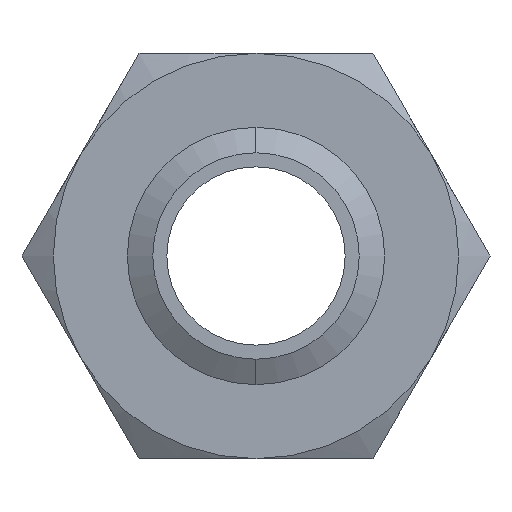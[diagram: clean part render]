
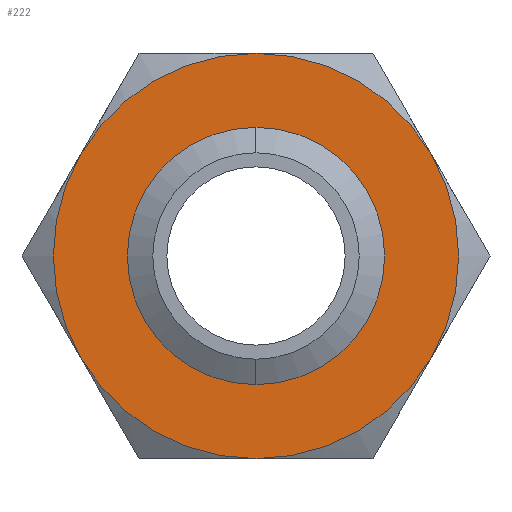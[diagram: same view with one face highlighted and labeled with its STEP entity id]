
A CAD part, front view. The second image highlights one B-rep face of the part: STEP entity #222.
In plain terms, the highlighted planar face has unit normal (0, -1, 0).
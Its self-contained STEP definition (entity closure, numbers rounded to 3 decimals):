
#222 = ADVANCED_FACE ( 'NONE', ( #763, #762 ), #761, .F. ) ;
#223 = ORIENTED_EDGE ( 'NONE', *, *, #297, .F. ) ;
#224 = EDGE_CURVE ( 'NONE', #303, #301, #759, .T. ) ;
#225 = ORIENTED_EDGE ( 'NONE', *, *, #226, .F. ) ;
#226 = EDGE_CURVE ( 'NONE', #227, #303, #750, .T. ) ;
#227 = VERTEX_POINT ( 'NONE', #751 ) ;
#228 = ORIENTED_EDGE ( 'NONE', *, *, #229, .F. ) ;
#229 = EDGE_CURVE ( 'NONE', #230, #227, #745, .T. ) ;
#230 = VERTEX_POINT ( 'NONE', #740 ) ;
#231 = ORIENTED_EDGE ( 'NONE', *, *, #283, .F. ) ;
#235 = EDGE_LOOP ( 'NONE', ( #223, #299, #302, #225, #228, #231 ) ) ;
#283 = EDGE_CURVE ( 'NONE', #298, #230, #840, .T. ) ;
#285 = ORIENTED_EDGE ( 'NONE', *, *, #1977, .F. ) ;
#286 = ORIENTED_EDGE ( 'NONE', *, *, #287, .F. ) ;
#287 = EDGE_CURVE ( 'NONE', #1916, #1918, #835, .T. ) ;
#296 = EDGE_LOOP ( 'NONE', ( #285, #286 ) ) ;
#297 = EDGE_CURVE ( 'NONE', #304, #298, #881, .T. ) ;
#298 = VERTEX_POINT ( 'NONE', #876 ) ;
#299 = ORIENTED_EDGE ( 'NONE', *, *, #300, .F. ) ;
#300 = EDGE_CURVE ( 'NONE', #301, #304, #875, .T. ) ;
#301 = VERTEX_POINT ( 'NONE', #870 ) ;
#302 = ORIENTED_EDGE ( 'NONE', *, *, #224, .F. ) ;
#303 = VERTEX_POINT ( 'NONE', #869 ) ;
#304 = VERTEX_POINT ( 'NONE', #868 ) ;
#740 = CARTESIAN_POINT ( 'NONE',  ( 21.651, 0., -12.5 ) ) ;
#741 = DIRECTION ( 'NONE',  ( 0., 0., 1. ) ) ;
#742 = DIRECTION ( 'NONE',  ( 0., 1., 0. ) ) ;
#743 = CARTESIAN_POINT ( 'NONE',  ( 0., 0., 0. ) ) ;
#744 = AXIS2_PLACEMENT_3D ( 'NONE', #743, #742, #741 ) ;
#745 = CIRCLE ( 'NONE', #744, 25. ) ;
#746 = DIRECTION ( 'NONE',  ( 0., 0., 1. ) ) ;
#747 = DIRECTION ( 'NONE',  ( 0., 1., 0. ) ) ;
#748 = CARTESIAN_POINT ( 'NONE',  ( 0., 0., 0. ) ) ;
#749 = AXIS2_PLACEMENT_3D ( 'NONE', #748, #747, #746 ) ;
#750 = CIRCLE ( 'NONE', #749, 25. ) ;
#751 = CARTESIAN_POINT ( 'NONE',  ( 0., 0., -25. ) ) ;
#752 = DIRECTION ( 'NONE',  ( 0., 0., 1. ) ) ;
#753 = DIRECTION ( 'NONE',  ( 0., 1., 0. ) ) ;
#754 = CARTESIAN_POINT ( 'NONE',  ( 0., 0., 0. ) ) ;
#755 = AXIS2_PLACEMENT_3D ( 'NONE', #754, #753, #752 ) ;
#756 = DIRECTION ( 'NONE',  ( 0., 0., 1. ) ) ;
#757 = DIRECTION ( 'NONE',  ( 0., 1., 0. ) ) ;
#758 = CARTESIAN_POINT ( 'NONE',  ( 14.434, 0., -25. ) ) ;
#759 = CIRCLE ( 'NONE', #755, 25. ) ;
#760 = AXIS2_PLACEMENT_3D ( 'NONE', #758, #757, #756 ) ;
#761 = PLANE ( 'NONE',  #760 ) ;
#762 = FACE_BOUND ( 'NONE', #296, .T. ) ;
#763 = FACE_OUTER_BOUND ( 'NONE', #235, .T. ) ;
#831 = DIRECTION ( 'NONE',  ( 0., 0., -1. ) ) ;
#832 = DIRECTION ( 'NONE',  ( 0., -1., 0. ) ) ;
#833 = CARTESIAN_POINT ( 'NONE',  ( 0., 0., 0. ) ) ;
#834 = AXIS2_PLACEMENT_3D ( 'NONE', #833, #832, #831 ) ;
#835 = CIRCLE ( 'NONE', #834, 12.731 ) ;
#836 = DIRECTION ( 'NONE',  ( 0., 0., 1. ) ) ;
#837 = DIRECTION ( 'NONE',  ( 0., 1., 0. ) ) ;
#838 = CARTESIAN_POINT ( 'NONE',  ( 0., 0., 0. ) ) ;
#839 = AXIS2_PLACEMENT_3D ( 'NONE', #838, #837, #836 ) ;
#840 = CIRCLE ( 'NONE', #839, 25. ) ;
#868 = CARTESIAN_POINT ( 'NONE',  ( 0., 0., 25. ) ) ;
#869 = CARTESIAN_POINT ( 'NONE',  ( -21.651, 0., -12.5 ) ) ;
#870 = CARTESIAN_POINT ( 'NONE',  ( -21.651, 0., 12.5 ) ) ;
#871 = DIRECTION ( 'NONE',  ( 0., 0., 1. ) ) ;
#872 = DIRECTION ( 'NONE',  ( 0., 1., 0. ) ) ;
#873 = CARTESIAN_POINT ( 'NONE',  ( 0., 0., 0. ) ) ;
#874 = AXIS2_PLACEMENT_3D ( 'NONE', #873, #872, #871 ) ;
#875 = CIRCLE ( 'NONE', #874, 25. ) ;
#876 = CARTESIAN_POINT ( 'NONE',  ( 21.651, 0., 12.5 ) ) ;
#877 = DIRECTION ( 'NONE',  ( 0., 0., 1. ) ) ;
#878 = DIRECTION ( 'NONE',  ( 0., 1., 0. ) ) ;
#879 = CARTESIAN_POINT ( 'NONE',  ( 0., 0., 0. ) ) ;
#880 = AXIS2_PLACEMENT_3D ( 'NONE', #879, #878, #877 ) ;
#881 = CIRCLE ( 'NONE', #880, 25. ) ;
#1395 = CARTESIAN_POINT ( 'NONE',  ( 0., 0., -12.731 ) ) ;
#1396 = CARTESIAN_POINT ( 'NONE',  ( 0., 0., 12.731 ) ) ;
#1519 = DIRECTION ( 'NONE',  ( 0., 0., -1. ) ) ;
#1520 = DIRECTION ( 'NONE',  ( 0., -1., 0. ) ) ;
#1521 = CARTESIAN_POINT ( 'NONE',  ( 0., 0., 0. ) ) ;
#1522 = AXIS2_PLACEMENT_3D ( 'NONE', #1521, #1520, #1519 ) ;
#1523 = CIRCLE ( 'NONE', #1522, 12.731 ) ;
#1916 = VERTEX_POINT ( 'NONE', #1396 ) ;
#1918 = VERTEX_POINT ( 'NONE', #1395 ) ;
#1977 = EDGE_CURVE ( 'NONE', #1918, #1916, #1523, .T. ) ;
